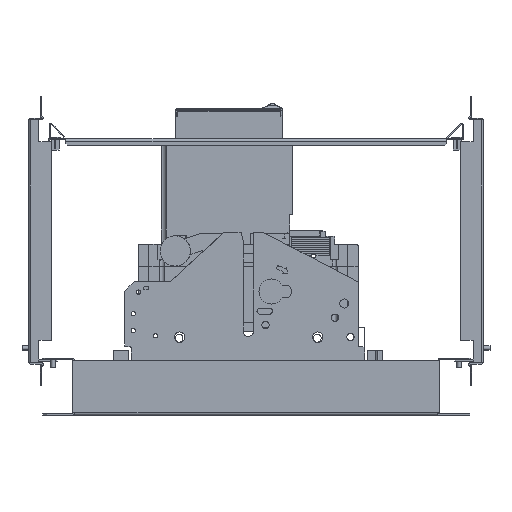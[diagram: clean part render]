
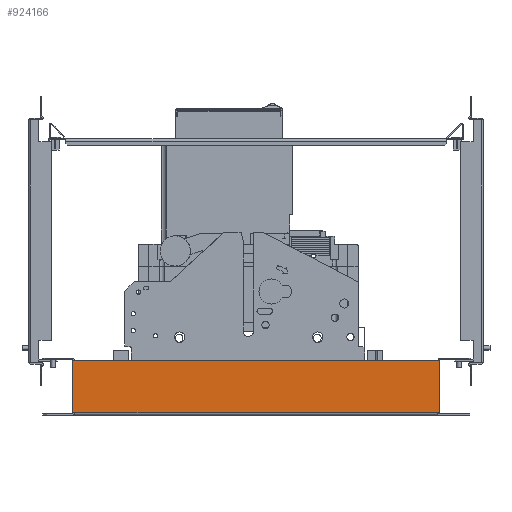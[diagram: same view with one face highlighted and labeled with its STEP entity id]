
A CAD part, front view. The second image highlights one B-rep face of the part: STEP entity #924166.
In plain terms, the highlighted planar face has unit normal (0, -1, 0).
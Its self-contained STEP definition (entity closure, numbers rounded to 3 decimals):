
#923561=CARTESIAN_POINT(' ',(-217.404,-145.242,-33.879));
#923562=VERTEX_POINT(' ',#923561);
#923576=CARTESIAN_POINT(' ',(-217.404,-145.242,-33.879));
#923581=DIRECTION(' ',(1.,0.,0.));
#923586=VECTOR(' ',#923581,1.);
#923591=LINE('',#923576,#923586);
#923596=CARTESIAN_POINT(' ',(207.796,-145.242,-33.879));
#923597=VERTEX_POINT(' ',#923596);
#923601=EDGE_CURVE(' ',#923562,#923597,#923591,.T.);
#923921=CARTESIAN_POINT(' ',(-217.404,-145.242,-94.579));
#923922=VERTEX_POINT(' ',#923921);
#923936=CARTESIAN_POINT(' ',(-217.404,-145.242,-94.579));
#923941=DIRECTION(' ',(0.,0.,1.));
#923946=VECTOR(' ',#923941,1.);
#923951=LINE('',#923936,#923946);
#923956=EDGE_CURVE(' ',#923922,#923562,#923951,.T.);
#923986=DIRECTION(' ',(0.,-1.,0.));
#923991=CARTESIAN_POINT(' ',(-217.404,-145.242,-33.879));
#923996=DIRECTION(' ',(0.,0.,-1.));
#924001=AXIS2_PLACEMENT_3D(' ',#923991,#923986,#923996);
#924006=PLANE('NONE',#924001);
#924011=ORIENTED_EDGE(' ',*,*,#923601,.F.);
#924016=ORIENTED_EDGE(' ',*,*,#923956,.F.);
#924021=CARTESIAN_POINT(' ',(-214.804,-145.242,-94.579));
#924026=DIRECTION(' ',(-1.,0.,0.));
#924031=VECTOR(' ',#924026,1.);
#924036=LINE('',#924021,#924031);
#924041=CARTESIAN_POINT(' ',(-214.804,-145.242,-94.579));
#924042=VERTEX_POINT(' ',#924041);
#924046=EDGE_CURVE(' ',#924042,#923922,#924036,.T.);
#924051=ORIENTED_EDGE(' ',*,*,#924046,.F.);
#924056=CARTESIAN_POINT(' ',(-214.804,-145.242,-94.579));
#924061=DIRECTION(' ',(1.,0.,0.));
#924066=VECTOR(' ',#924061,1.);
#924071=LINE('',#924056,#924066);
#924076=CARTESIAN_POINT(' ',(205.196,-145.242,-94.579));
#924077=VERTEX_POINT(' ',#924076);
#924081=EDGE_CURVE(' ',#924042,#924077,#924071,.T.);
#924086=ORIENTED_EDGE(' ',*,*,#924081,.T.);
#924091=CARTESIAN_POINT(' ',(205.196,-145.242,-94.579));
#924096=DIRECTION(' ',(1.,0.,0.));
#924101=VECTOR(' ',#924096,1.);
#924106=LINE('',#924091,#924101);
#924111=CARTESIAN_POINT(' ',(207.796,-145.242,-94.579));
#924112=VERTEX_POINT(' ',#924111);
#924116=EDGE_CURVE(' ',#924077,#924112,#924106,.T.);
#924121=ORIENTED_EDGE(' ',*,*,#924116,.T.);
#924126=CARTESIAN_POINT(' ',(207.796,-145.242,-94.579));
#924131=DIRECTION(' ',(0.,0.,1.));
#924136=VECTOR(' ',#924131,1.);
#924141=LINE('',#924126,#924136);
#924146=EDGE_CURVE(' ',#924112,#923597,#924141,.T.);
#924151=ORIENTED_EDGE(' ',*,*,#924146,.T.);
#924156=EDGE_LOOP(' ',(#924011,#924016,#924051,#924086,#924121,#924151));
#924161=FACE_OUTER_BOUND(' ',#924156,.T.);
#924166=ADVANCED_FACE('NONE',(#924161),#924006,.T.);
